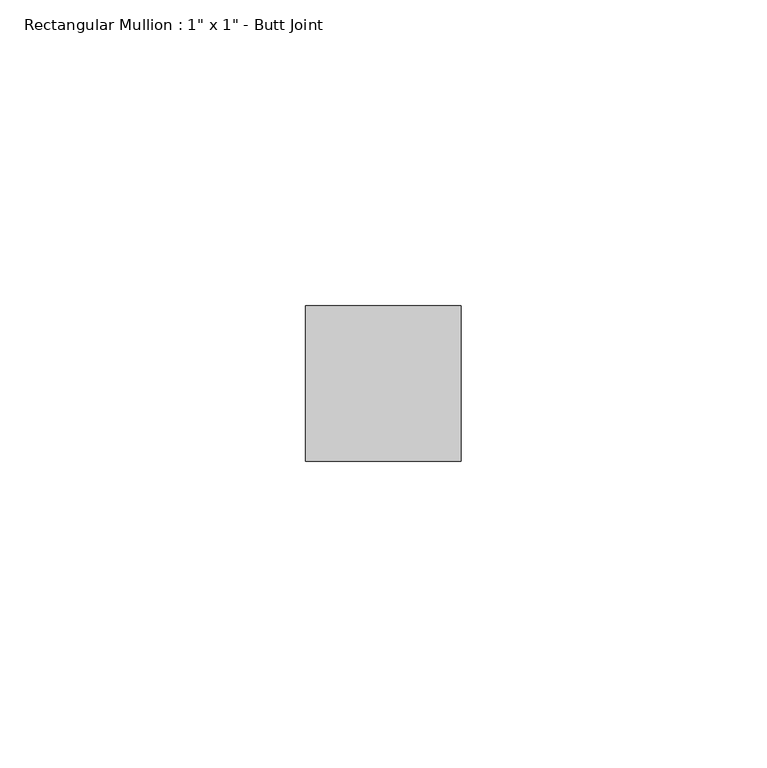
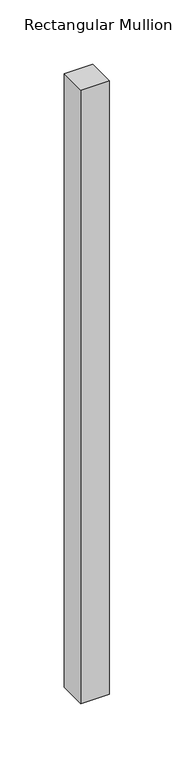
"""IFC4 building model written with IfcOpenShell, lengths in millimetres: member geometry."""

from ifc_helpers import new_model, si_unit, frame, origin, place, context, project, spatial, polyline, outline, extrude, source, transform, mapped, element, save


def member_dcd82389(model_context):
    return source(origin(), model_context, "Body", "SweptSolid", [
        extrude(outline(polyline([(12.7, 12.7), (12.7, -12.7), (-12.7, -12.7), (-12.7, 12.7), (12.7, 12.7)])), frame((0.0, 0.0, -580.5998817), z_axis=(0.0, 0.0, 1.0), x_axis=(1.0, 0.0, 0.0)), (0.0, 0.0, 1.0), 580.5998817),
    ])


if __name__ == "__main__":
    model = new_model("IFC4")
    model_context = context("Model", 3, world=origin())
    ifc_project = project(units=[si_unit("LENGTHUNIT", "METRE", prefix="MILLI")], contexts=[model_context])
    site = spatial("IfcSite", under=ifc_project)
    building = spatial("IfcBuilding", under=site)
    placement = place(None, origin())
    member_shape = member_dcd82389(model_context)
    element("IfcMember", 1, ObjectType="Rectangular Mullion : 1\" x 1\" - Butt Joint", at=placement, inside=building, context=model_context, shape_type="MappedRepresentation", body=[
        mapped(member_shape, transform((0.0, 0.0, 0.0), x_axis=(1.0, 0.0, 0.0), y_axis=(0.0, 1.0, 0.0), z_axis=(0.0, 0.0, 1.0))),
    ])
    save(model, "model.ifc")
